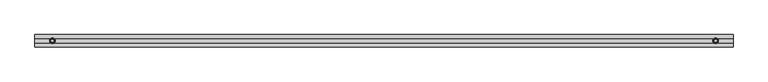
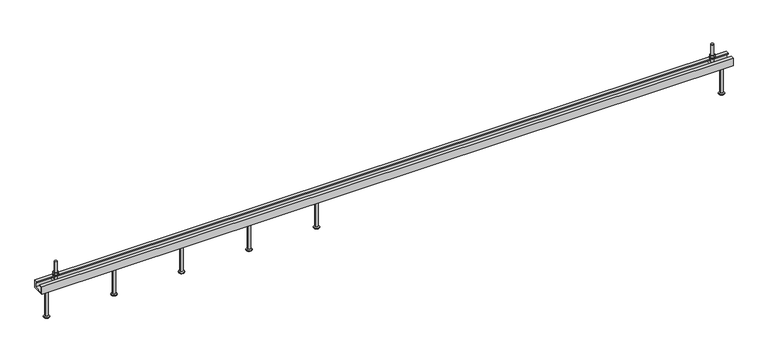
"""IFC4 building model written with IfcOpenShell, lengths in millimetres: fastener geometry, JTA-K JORDAHL® AnchorChannels : JTA-K L=3000 mm."""

from ifc_helpers import new_model, si_unit, point, frame, frame_2d, origin, place, context, project, spatial, polyline, circle_curve, trimmed, segment, composite_curve, outline, extrude, source, transform, mapped, element, save
from ifc_brep_helpers import plane_surface, cylinder_surface, revolved_surface, advanced_brep


def fastener_901281f7(model_context):
    return source(origin(), model_context, "Body", "SolidModel", [
        advanced_brep(
        [(1207.0, 0.0, -34.0), (1189.5, 0.0, -34.0), (1224.5, 0.0, -34.0), (1195.5, 0.0, -165.0), (1207.0, 0.0, -165.0), (1218.5, 0.0, -165.0), (1195.5, 0.0, -163.0), (1218.5, 0.0, -163.0), (1201.2, 0.0, -159.7091035), (1212.8, 0.0, -159.7091035), (1201.2, 0.0, -37.0), (1212.8, 0.0, -37.0)],
        [
            (0, 1),
            (1, 2, circle_curve(frame((1207.0, 0.0, -34.0), z_axis=(0.0, 0.0, 1.0), x_axis=(1.0, 0.0, 0.0)), 17.5)),
            (2, 0),
            (2, 1, circle_curve(frame((1207.0, 0.0, -34.0), z_axis=(0.0, 0.0, 1.0), x_axis=(1.0, 0.0, 0.0)), 17.5)),
            (3, 4),
            (4, 5),
            (5, 3, circle_curve(frame((1207.0, 0.0, -165.0), z_axis=(0.0, 0.0, -1.0), x_axis=(1.0, 0.0, 0.0)), 11.5)),
            (3, 5, circle_curve(frame((1207.0, 0.0, -165.0), z_axis=(0.0, 0.0, -1.0), x_axis=(1.0, 0.0, 0.0)), 11.5)),
            (6, 3),
            (5, 7),
            (7, 6, circle_curve(frame((1207.0, 0.0, -163.0), z_axis=(0.0, 0.0, -1.0), x_axis=(1.0, 0.0, 0.0)), 11.5)),
            (6, 7, circle_curve(frame((1207.0, 0.0, -163.0), z_axis=(0.0, 0.0, -1.0), x_axis=(1.0, 0.0, 0.0)), 11.5)),
            (8, 6),
            (7, 9),
            (9, 8, circle_curve(frame((1207.0, 0.0, -159.7091035), z_axis=(0.0, 0.0, -1.0), x_axis=(1.0, 0.0, 0.0)), 5.8)),
            (8, 9, circle_curve(frame((1207.0, 0.0, -159.7091035), z_axis=(0.0, 0.0, -1.0), x_axis=(1.0, 0.0, 0.0)), 5.8)),
            (10, 8),
            (9, 11),
            (11, 10, circle_curve(frame((1207.0, 0.0, -37.0), z_axis=(0.0, 0.0, -1.0), x_axis=(1.0, 0.0, 0.0)), 5.8)),
            (10, 11, circle_curve(frame((1207.0, 0.0, -37.0), z_axis=(0.0, 0.0, -1.0), x_axis=(1.0, 0.0, 0.0)), 5.8)),
            (1, 10),
            (11, 2),
        ],
        [
            plane_surface(frame((1207.0, 0.0, -34.0), z_axis=(0.0, 0.0, 1.0), x_axis=(1.0, 0.0, 0.0))),
            plane_surface(frame((1207.0, 0.0, -165.0), z_axis=(0.0, 0.0, -1.0), x_axis=(1.0, 0.0, 0.0))),
            cylinder_surface(frame((1207.0, 0.0, 2345.3150031), z_axis=(0.0, 0.0, 1.0), x_axis=(1.0, 0.0, 0.0)), 11.5),
            revolved_surface(polyline([(1218.5, 0.0, -163.0), (1212.8, 0.0, -159.7091035)]), (1207.0, 0.0, 2345.3150031), (0.0, 0.0, 1.0)),
            cylinder_surface(frame((1207.0, 0.0, 2345.3150031), z_axis=(0.0, 0.0, 1.0), x_axis=(1.0, 0.0, 0.0)), 5.8),
            revolved_surface(polyline([(1212.8, 0.0, -37.0), (1224.5, 0.0, -34.0)]), (1207.0, 0.0, 2345.3150031), (0.0, 0.0, 1.0)),
        ],
        [
            (0, [[1, 2, 3]]),
            (0, [[-3, 4, -1]]),
            (1, [[5, 6, 7]]),
            (1, [[-6, -5, 8]]),
            (2, [[9, -7, 10, 11]]),
            (2, [[-10, -8, -9, 12]]),
            (3, [[13, -11, 14, 15]]),
            (3, [[-14, -12, -13, 16]]),
            (4, [[17, -15, 18, 19]]),
            (4, [[-18, -16, -17, 20]]),
            (5, [[21, -19, 22, -2]]),
            (5, [[-22, -20, -21, -4]]),
        ],
    ),
        advanced_brep(
        [(914.0, 0.0, -34.0), (896.5, 0.0, -34.0), (931.5, 0.0, -34.0), (902.5, 0.0, -165.0), (914.0, 0.0, -165.0), (925.5, 0.0, -165.0), (902.5, 0.0, -163.0), (925.5, 0.0, -163.0), (908.2, 0.0, -159.7091035), (919.8, 0.0, -159.7091035), (908.2, 0.0, -37.0), (919.8, 0.0, -37.0)],
        [
            (0, 1),
            (1, 2, circle_curve(frame((914.0, 0.0, -34.0), z_axis=(0.0, 0.0, 1.0), x_axis=(1.0, 0.0, 0.0)), 17.5)),
            (2, 0),
            (2, 1, circle_curve(frame((914.0, 0.0, -34.0), z_axis=(0.0, 0.0, 1.0), x_axis=(1.0, 0.0, 0.0)), 17.5)),
            (3, 4),
            (4, 5),
            (5, 3, circle_curve(frame((914.0, 0.0, -165.0), z_axis=(0.0, 0.0, -1.0), x_axis=(1.0, 0.0, 0.0)), 11.5)),
            (3, 5, circle_curve(frame((914.0, 0.0, -165.0), z_axis=(0.0, 0.0, -1.0), x_axis=(1.0, 0.0, 0.0)), 11.5)),
            (6, 3),
            (5, 7),
            (7, 6, circle_curve(frame((914.0, 0.0, -163.0), z_axis=(0.0, 0.0, -1.0), x_axis=(1.0, 0.0, 0.0)), 11.5)),
            (6, 7, circle_curve(frame((914.0, 0.0, -163.0), z_axis=(0.0, 0.0, -1.0), x_axis=(1.0, 0.0, 0.0)), 11.5)),
            (8, 6),
            (7, 9),
            (9, 8, circle_curve(frame((914.0, 0.0, -159.7091035), z_axis=(0.0, 0.0, -1.0), x_axis=(1.0, 0.0, 0.0)), 5.8)),
            (8, 9, circle_curve(frame((914.0, 0.0, -159.7091035), z_axis=(0.0, 0.0, -1.0), x_axis=(1.0, 0.0, 0.0)), 5.8)),
            (10, 8),
            (9, 11),
            (11, 10, circle_curve(frame((914.0, 0.0, -37.0), z_axis=(0.0, 0.0, -1.0), x_axis=(1.0, 0.0, 0.0)), 5.8)),
            (10, 11, circle_curve(frame((914.0, 0.0, -37.0), z_axis=(0.0, 0.0, -1.0), x_axis=(1.0, 0.0, 0.0)), 5.8)),
            (1, 10),
            (11, 2),
        ],
        [
            plane_surface(frame((914.0, 0.0, -34.0), z_axis=(0.0, 0.0, 1.0), x_axis=(1.0, 0.0, 0.0))),
            plane_surface(frame((914.0, 0.0, -165.0), z_axis=(0.0, 0.0, -1.0), x_axis=(1.0, 0.0, 0.0))),
            cylinder_surface(frame((914.0, 0.0, 2345.3150031), z_axis=(0.0, 0.0, 1.0), x_axis=(1.0, 0.0, 0.0)), 11.5),
            revolved_surface(polyline([(925.5, 0.0, -163.0), (919.8, 0.0, -159.7091035)]), (914.0, 0.0, 2345.3150031), (0.0, 0.0, 1.0)),
            cylinder_surface(frame((914.0, 0.0, 2345.3150031), z_axis=(0.0, 0.0, 1.0), x_axis=(1.0, 0.0, 0.0)), 5.8),
            revolved_surface(polyline([(919.8, 0.0, -37.0), (931.5, 0.0, -34.0)]), (914.0, 0.0, 2345.3150031), (0.0, 0.0, 1.0)),
        ],
        [
            (0, [[1, 2, 3]]),
            (0, [[-3, 4, -1]]),
            (1, [[5, 6, 7]]),
            (1, [[-6, -5, 8]]),
            (2, [[9, -7, 10, 11]]),
            (2, [[-10, -8, -9, 12]]),
            (3, [[13, -11, 14, 15]]),
            (3, [[-14, -12, -13, 16]]),
            (4, [[17, -15, 18, 19]]),
            (4, [[-18, -16, -17, 20]]),
            (5, [[21, -19, 22, -2]]),
            (5, [[-22, -20, -21, -4]]),
        ],
    ),
        advanced_brep(
        [(621.0, 0.0, -34.0), (603.5, 0.0, -34.0), (638.5, 0.0, -34.0), (609.5, 0.0, -165.0), (621.0, 0.0, -165.0), (632.5, 0.0, -165.0), (609.5, 0.0, -163.0), (632.5, 0.0, -163.0), (615.2, 0.0, -159.7091035), (626.8, 0.0, -159.7091035), (615.2, 0.0, -37.0), (626.8, 0.0, -37.0)],
        [
            (0, 1),
            (1, 2, circle_curve(frame((621.0, 0.0, -34.0), z_axis=(0.0, 0.0, 1.0), x_axis=(1.0, 0.0, 0.0)), 17.5)),
            (2, 0),
            (2, 1, circle_curve(frame((621.0, 0.0, -34.0), z_axis=(0.0, 0.0, 1.0), x_axis=(1.0, 0.0, 0.0)), 17.5)),
            (3, 4),
            (4, 5),
            (5, 3, circle_curve(frame((621.0, 0.0, -165.0), z_axis=(0.0, 0.0, -1.0), x_axis=(1.0, 0.0, 0.0)), 11.5)),
            (3, 5, circle_curve(frame((621.0, 0.0, -165.0), z_axis=(0.0, 0.0, -1.0), x_axis=(1.0, 0.0, 0.0)), 11.5)),
            (6, 3),
            (5, 7),
            (7, 6, circle_curve(frame((621.0, 0.0, -163.0), z_axis=(0.0, 0.0, -1.0), x_axis=(1.0, 0.0, 0.0)), 11.5)),
            (6, 7, circle_curve(frame((621.0, 0.0, -163.0), z_axis=(0.0, 0.0, -1.0), x_axis=(1.0, 0.0, 0.0)), 11.5)),
            (8, 6),
            (7, 9),
            (9, 8, circle_curve(frame((621.0, 0.0, -159.7091035), z_axis=(0.0, 0.0, -1.0), x_axis=(1.0, 0.0, 0.0)), 5.8)),
            (8, 9, circle_curve(frame((621.0, 0.0, -159.7091035), z_axis=(0.0, 0.0, -1.0), x_axis=(1.0, 0.0, 0.0)), 5.8)),
            (10, 8),
            (9, 11),
            (11, 10, circle_curve(frame((621.0, 0.0, -37.0), z_axis=(0.0, 0.0, -1.0), x_axis=(1.0, 0.0, 0.0)), 5.8)),
            (10, 11, circle_curve(frame((621.0, 0.0, -37.0), z_axis=(0.0, 0.0, -1.0), x_axis=(1.0, 0.0, 0.0)), 5.8)),
            (1, 10),
            (11, 2),
        ],
        [
            plane_surface(frame((621.0, 0.0, -34.0), z_axis=(0.0, 0.0, 1.0), x_axis=(1.0, 0.0, 0.0))),
            plane_surface(frame((621.0, 0.0, -165.0), z_axis=(0.0, 0.0, -1.0), x_axis=(1.0, 0.0, 0.0))),
            cylinder_surface(frame((621.0, 0.0, 2345.3150031), z_axis=(0.0, 0.0, 1.0), x_axis=(1.0, 0.0, 0.0)), 11.5),
            revolved_surface(polyline([(632.5, 0.0, -163.0), (626.8, 0.0, -159.7091035)]), (621.0, 0.0, 2345.3150031), (0.0, 0.0, 1.0)),
            cylinder_surface(frame((621.0, 0.0, 2345.3150031), z_axis=(0.0, 0.0, 1.0), x_axis=(1.0, 0.0, 0.0)), 5.8),
            revolved_surface(polyline([(626.8, 0.0, -37.0), (638.5, 0.0, -34.0)]), (621.0, 0.0, 2345.3150031), (0.0, 0.0, 1.0)),
        ],
        [
            (0, [[1, 2, 3]]),
            (0, [[-3, 4, -1]]),
            (1, [[5, 6, 7]]),
            (1, [[-6, -5, 8]]),
            (2, [[9, -7, 10, 11]]),
            (2, [[-10, -8, -9, 12]]),
            (3, [[13, -11, 14, 15]]),
            (3, [[-14, -12, -13, 16]]),
            (4, [[17, -15, 18, 19]]),
            (4, [[-18, -16, -17, 20]]),
            (5, [[21, -19, 22, -2]]),
            (5, [[-22, -20, -21, -4]]),
        ],
    ),
        advanced_brep(
        [(328.0, 0.0, -34.0), (310.5, 0.0, -34.0), (345.5, 0.0, -34.0), (316.5, 0.0, -165.0), (328.0, 0.0, -165.0), (339.5, 0.0, -165.0), (316.5, 0.0, -163.0), (339.5, 0.0, -163.0), (322.2, 0.0, -159.7091035), (333.8, 0.0, -159.7091035), (322.2, 0.0, -37.0), (333.8, 0.0, -37.0)],
        [
            (0, 1),
            (1, 2, circle_curve(frame((328.0, 0.0, -34.0), z_axis=(0.0, 0.0, 1.0), x_axis=(1.0, 0.0, 0.0)), 17.5)),
            (2, 0),
            (2, 1, circle_curve(frame((328.0, 0.0, -34.0), z_axis=(0.0, 0.0, 1.0), x_axis=(1.0, 0.0, 0.0)), 17.5)),
            (3, 4),
            (4, 5),
            (5, 3, circle_curve(frame((328.0, 0.0, -165.0), z_axis=(0.0, 0.0, -1.0), x_axis=(1.0, 0.0, 0.0)), 11.5)),
            (3, 5, circle_curve(frame((328.0, 0.0, -165.0), z_axis=(0.0, 0.0, -1.0), x_axis=(1.0, 0.0, 0.0)), 11.5)),
            (6, 3),
            (5, 7),
            (7, 6, circle_curve(frame((328.0, 0.0, -163.0), z_axis=(0.0, 0.0, -1.0), x_axis=(1.0, 0.0, 0.0)), 11.5)),
            (6, 7, circle_curve(frame((328.0, 0.0, -163.0), z_axis=(0.0, 0.0, -1.0), x_axis=(1.0, 0.0, 0.0)), 11.5)),
            (8, 6),
            (7, 9),
            (9, 8, circle_curve(frame((328.0, 0.0, -159.7091035), z_axis=(0.0, 0.0, -1.0), x_axis=(1.0, 0.0, 0.0)), 5.8)),
            (8, 9, circle_curve(frame((328.0, 0.0, -159.7091035), z_axis=(0.0, 0.0, -1.0), x_axis=(1.0, 0.0, 0.0)), 5.8)),
            (10, 8),
            (9, 11),
            (11, 10, circle_curve(frame((328.0, 0.0, -37.0), z_axis=(0.0, 0.0, -1.0), x_axis=(1.0, 0.0, 0.0)), 5.8)),
            (10, 11, circle_curve(frame((328.0, 0.0, -37.0), z_axis=(0.0, 0.0, -1.0), x_axis=(1.0, 0.0, 0.0)), 5.8)),
            (1, 10),
            (11, 2),
        ],
        [
            plane_surface(frame((328.0, 0.0, -34.0), z_axis=(0.0, 0.0, 1.0), x_axis=(1.0, 0.0, 0.0))),
            plane_surface(frame((328.0, 0.0, -165.0), z_axis=(0.0, 0.0, -1.0), x_axis=(1.0, 0.0, 0.0))),
            cylinder_surface(frame((328.0, 0.0, 2345.3150031), z_axis=(0.0, 0.0, 1.0), x_axis=(1.0, 0.0, 0.0)), 11.5),
            revolved_surface(polyline([(339.5, 0.0, -163.0), (333.8, 0.0, -159.7091035)]), (328.0, 0.0, 2345.3150031), (0.0, 0.0, 1.0)),
            cylinder_surface(frame((328.0, 0.0, 2345.3150031), z_axis=(0.0, 0.0, 1.0), x_axis=(1.0, 0.0, 0.0)), 5.8),
            revolved_surface(polyline([(333.8, 0.0, -37.0), (345.5, 0.0, -34.0)]), (328.0, 0.0, 2345.3150031), (0.0, 0.0, 1.0)),
        ],
        [
            (0, [[1, 2, 3]]),
            (0, [[-3, 4, -1]]),
            (1, [[5, 6, 7]]),
            (1, [[-6, -5, 8]]),
            (2, [[9, -7, 10, 11]]),
            (2, [[-10, -8, -9, 12]]),
            (3, [[13, -11, 14, 15]]),
            (3, [[-14, -12, -13, 16]]),
            (4, [[17, -15, 18, 19]]),
            (4, [[-18, -16, -17, 20]]),
            (5, [[21, -19, 22, -2]]),
            (5, [[-22, -20, -21, -4]]),
        ],
    ),
        extrude(outline(polyline([(2925.0, -10.3923048), (2916.0, -5.1961524), (2916.0, 5.1961524), (2925.0, 10.3923048), (2934.0, 5.1961524), (2934.0, -5.1961524), (2925.0, -10.3923048)]), holes=[composite_curve([segment(trimmed(circle_curve(frame_2d((2925.0, 0.0)), 6.0), [point((2919.0, 0.0))], [point((2931.0, 0.0))], True, "CARTESIAN"), True, "CONTINUOUS"), segment(trimmed(circle_curve(frame_2d((2925.0, 0.0)), 6.0), [point((2931.0, 0.0))], [point((2919.0, 0.0))], True, "CARTESIAN"), True, "CONTINUOUS")], self_intersect=False)]), frame((0.0, 0.0, 17.5), z_axis=(0.0, 0.0, 1.0), x_axis=(1.0, 0.0, 0.0)), (0.0, 0.0, 1.0), 10.8),
        extrude(outline(composite_curve([segment(trimmed(circle_curve(frame_2d((2925.0, 0.0)), 12.0), [point((2913.0, 0.0))], [point((2937.0, 0.0))], False, "CARTESIAN"), True, "CONTINUOUS"), segment(trimmed(circle_curve(frame_2d((2925.0, 0.0)), 12.0), [point((2937.0, 0.0))], [point((2913.0, 0.0))], False, "CARTESIAN"), True, "CONTINUOUS")], self_intersect=False), holes=[composite_curve([segment(trimmed(circle_curve(frame_2d((2925.0, 0.0)), 6.5), [point((2918.5, 0.0))], [point((2931.5, 0.0))], True, "CARTESIAN"), True, "CONTINUOUS"), segment(trimmed(circle_curve(frame_2d((2925.0, 0.0)), 6.5), [point((2931.5, 0.0))], [point((2918.5, 0.0))], True, "CARTESIAN"), True, "CONTINUOUS")], self_intersect=False)]), frame((0.0, 0.0, 15.0), z_axis=(0.0, 0.0, 1.0), x_axis=(1.0, 0.0, 0.0)), (0.0, 0.0, 1.0), 2.5),
        extrude(outline(polyline([(75.0, -10.3923048), (66.0, -5.1961524), (66.0, 5.1961524), (75.0, 10.3923048), (84.0, 5.1961524), (84.0, -5.1961524), (75.0, -10.3923048)]), holes=[composite_curve([segment(trimmed(circle_curve(frame_2d((75.0, 0.0)), 6.0), [point((69.0, 0.0))], [point((81.0, 0.0))], True, "CARTESIAN"), True, "CONTINUOUS"), segment(trimmed(circle_curve(frame_2d((75.0, 0.0)), 6.0), [point((81.0, 0.0))], [point((69.0, 0.0))], True, "CARTESIAN"), True, "CONTINUOUS")], self_intersect=False)]), frame((0.0, 0.0, 17.5), z_axis=(0.0, 0.0, 1.0), x_axis=(1.0, 0.0, 0.0)), (0.0, 0.0, 1.0), 10.8),
        extrude(outline(composite_curve([segment(trimmed(circle_curve(frame_2d((75.0, 0.0)), 12.0), [point((63.0, 0.0))], [point((87.0, 0.0))], False, "CARTESIAN"), True, "CONTINUOUS"), segment(trimmed(circle_curve(frame_2d((75.0, 0.0)), 12.0), [point((87.0, 0.0))], [point((63.0, 0.0))], False, "CARTESIAN"), True, "CONTINUOUS")], self_intersect=False), holes=[composite_curve([segment(trimmed(circle_curve(frame_2d((75.0, 0.0)), 6.5), [point((68.5, 0.0))], [point((81.5, 0.0))], True, "CARTESIAN"), True, "CONTINUOUS"), segment(trimmed(circle_curve(frame_2d((75.0, 0.0)), 6.5), [point((81.5, 0.0))], [point((68.5, 0.0))], True, "CARTESIAN"), True, "CONTINUOUS")], self_intersect=False)]), frame((0.0, 0.0, 15.0), z_axis=(0.0, 0.0, 1.0), x_axis=(1.0, 0.0, 0.0)), (0.0, 0.0, 1.0), 2.5),
        advanced_brep(
        [(2933.5, -20.7, -4.5), (2933.5, -20.7, -14.5), (2933.5, 20.7, -14.5), (2933.5, 20.7, -4.5), (2916.5, -20.7, -4.5), (2916.5, 20.7, -4.5), (2916.5, 20.7, -14.5), (2916.5, -20.7, -14.5), (2931.0, 0.0, -4.5), (2919.0, 0.0, -4.5), (2919.0, 0.0, 75.5), (2931.0, 0.0, 75.5)],
        [
            (0, 1),
            (1, 2),
            (2, 3),
            (3, 0),
            (4, 5),
            (5, 6),
            (6, 7),
            (7, 4),
            (3, 5),
            (4, 0),
            (8, 9, circle_curve(frame((2925.0, 0.0, -4.5), z_axis=(0.0, 0.0, -1.0), x_axis=(1.0, 0.0, 0.0)), 6.0)),
            (9, 8, circle_curve(frame((2925.0, 0.0, -4.5), z_axis=(0.0, 0.0, -1.0), x_axis=(1.0, 0.0, 0.0)), 6.0)),
            (2, 6),
            (1, 7),
            (10, 11, circle_curve(frame((2925.0, 0.0, 75.5), z_axis=(0.0, 0.0, 1.0), x_axis=(1.0, 0.0, 0.0)), 6.0)),
            (11, 10, circle_curve(frame((2925.0, 0.0, 75.5), z_axis=(0.0, 0.0, 1.0), x_axis=(1.0, 0.0, 0.0)), 6.0)),
            (11, 8),
            (9, 10),
        ],
        [
            plane_surface(frame((2933.5, 20.7, -4.5), z_axis=(1.0, 0.0, 0.0), x_axis=(0.0, 1.0, 0.0))),
            plane_surface(frame((2916.5, 20.7, -4.5), z_axis=(-1.0, 0.0, 0.0), x_axis=(0.0, -1.0, 0.0))),
            plane_surface(frame((2933.5, -20.7, -4.5), z_axis=(0.0, 0.0, 1.0), x_axis=(-1.0, 0.0, 0.0))),
            plane_surface(frame((2933.5, 20.7, -4.5), z_axis=(0.0, 1.0, 0.0), x_axis=(-1.0, 0.0, 0.0))),
            plane_surface(frame((2933.5, 20.7, -14.5), z_axis=(0.0, 0.0, -1.0), x_axis=(-1.0, 0.0, 0.0))),
            plane_surface(frame((2933.5, -20.7, -14.5), z_axis=(0.0, -1.0, 0.0), x_axis=(-1.0, 0.0, 0.0))),
            plane_surface(frame((2931.0, 0.0, 75.5), z_axis=(0.0, 0.0, 1.0), x_axis=(0.0, -1.0, 0.0))),
            cylinder_surface(frame((2925.0, 0.0, -4.5), z_axis=(0.0, 0.0, 1.0), x_axis=(1.0, 0.0, 0.0)), 6.0),
        ],
        [
            (0, [[1, 2, 3, 4]]),
            (1, [[5, 6, 7, 8]]),
            (2, [[9, -5, 10, -4], [11, 12]]),
            (3, [[13, -6, -9, -3]]),
            (4, [[14, -7, -13, -2]]),
            (5, [[-10, -8, -14, -1]]),
            (6, [[15, 16]]),
            (7, [[17, -12, 18, -16]]),
            (7, [[-18, -11, -17, -15]]),
        ],
    ),
        advanced_brep(
        [(83.5, -20.7, -4.5), (83.5, -20.7, -14.5), (83.5, 20.7, -14.5), (83.5, 20.7, -4.5), (66.5, -20.7, -4.5), (66.5, 20.7, -4.5), (66.5, 20.7, -14.5), (66.5, -20.7, -14.5), (81.0, 0.0, -4.5), (69.0, 0.0, -4.5), (69.0, 0.0, 75.5), (81.0, 0.0, 75.5)],
        [
            (0, 1),
            (1, 2),
            (2, 3),
            (3, 0),
            (4, 5),
            (5, 6),
            (6, 7),
            (7, 4),
            (3, 5),
            (4, 0),
            (8, 9, circle_curve(frame((75.0, 0.0, -4.5), z_axis=(0.0, 0.0, -1.0), x_axis=(1.0, 0.0, 0.0)), 6.0)),
            (9, 8, circle_curve(frame((75.0, 0.0, -4.5), z_axis=(0.0, 0.0, -1.0), x_axis=(1.0, 0.0, 0.0)), 6.0)),
            (2, 6),
            (1, 7),
            (10, 11, circle_curve(frame((75.0, 0.0, 75.5), z_axis=(0.0, 0.0, 1.0), x_axis=(1.0, 0.0, 0.0)), 6.0)),
            (11, 10, circle_curve(frame((75.0, 0.0, 75.5), z_axis=(0.0, 0.0, 1.0), x_axis=(1.0, 0.0, 0.0)), 6.0)),
            (11, 8),
            (9, 10),
        ],
        [
            plane_surface(frame((83.5, 20.7, -4.5), z_axis=(1.0, 0.0, 0.0), x_axis=(0.0, 1.0, 0.0))),
            plane_surface(frame((66.5, 20.7, -4.5), z_axis=(-1.0, 0.0, 0.0), x_axis=(0.0, -1.0, 0.0))),
            plane_surface(frame((83.5, -20.7, -4.5), z_axis=(0.0, 0.0, 1.0), x_axis=(-1.0, 0.0, 0.0))),
            plane_surface(frame((83.5, 20.7, -4.5), z_axis=(0.0, 1.0, 0.0), x_axis=(-1.0, 0.0, 0.0))),
            plane_surface(frame((83.5, 20.7, -14.5), z_axis=(0.0, 0.0, -1.0), x_axis=(-1.0, 0.0, 0.0))),
            plane_surface(frame((83.5, -20.7, -14.5), z_axis=(0.0, -1.0, 0.0), x_axis=(-1.0, 0.0, 0.0))),
            plane_surface(frame((81.0, 0.0, 75.5), z_axis=(0.0, 0.0, 1.0), x_axis=(0.0, -1.0, 0.0))),
            cylinder_surface(frame((75.0, 0.0, -4.5), z_axis=(0.0, 0.0, 1.0), x_axis=(1.0, 0.0, 0.0)), 6.0),
        ],
        [
            (0, [[1, 2, 3, 4]]),
            (1, [[5, 6, 7, 8]]),
            (2, [[9, -5, 10, -4], [11, 12]]),
            (3, [[13, -6, -9, -3]]),
            (4, [[14, -7, -13, -2]]),
            (5, [[-10, -8, -14, -1]]),
            (6, [[15, 16]]),
            (7, [[17, -12, 18, -16]]),
            (7, [[-18, -11, -17, -15]]),
        ],
    ),
        advanced_brep(
        [(2965.0, 0.0, -34.0), (2947.5, 0.0, -34.0), (2982.5, 0.0, -34.0), (2953.5, 0.0, -165.0), (2965.0, 0.0, -165.0), (2976.5, 0.0, -165.0), (2953.5, 0.0, -163.0), (2976.5, 0.0, -163.0), (2959.2, 0.0, -159.7091035), (2970.8, 0.0, -159.7091035), (2959.2, 0.0, -37.0), (2970.8, 0.0, -37.0)],
        [
            (0, 1),
            (1, 2, circle_curve(frame((2965.0, 0.0, -34.0), z_axis=(0.0, 0.0, 1.0), x_axis=(1.0, 0.0, 0.0)), 17.5)),
            (2, 0),
            (2, 1, circle_curve(frame((2965.0, 0.0, -34.0), z_axis=(0.0, 0.0, 1.0), x_axis=(1.0, 0.0, 0.0)), 17.5)),
            (3, 4),
            (4, 5),
            (5, 3, circle_curve(frame((2965.0, 0.0, -165.0), z_axis=(0.0, 0.0, -1.0), x_axis=(1.0, 0.0, 0.0)), 11.5)),
            (3, 5, circle_curve(frame((2965.0, 0.0, -165.0), z_axis=(0.0, 0.0, -1.0), x_axis=(1.0, 0.0, 0.0)), 11.5)),
            (6, 3),
            (5, 7),
            (7, 6, circle_curve(frame((2965.0, 0.0, -163.0), z_axis=(0.0, 0.0, -1.0), x_axis=(1.0, 0.0, 0.0)), 11.5)),
            (6, 7, circle_curve(frame((2965.0, 0.0, -163.0), z_axis=(0.0, 0.0, -1.0), x_axis=(1.0, 0.0, 0.0)), 11.5)),
            (8, 6),
            (7, 9),
            (9, 8, circle_curve(frame((2965.0, 0.0, -159.7091035), z_axis=(0.0, 0.0, -1.0), x_axis=(1.0, 0.0, 0.0)), 5.8)),
            (8, 9, circle_curve(frame((2965.0, 0.0, -159.7091035), z_axis=(0.0, 0.0, -1.0), x_axis=(1.0, 0.0, 0.0)), 5.8)),
            (10, 8),
            (9, 11),
            (11, 10, circle_curve(frame((2965.0, 0.0, -37.0), z_axis=(0.0, 0.0, -1.0), x_axis=(1.0, 0.0, 0.0)), 5.8)),
            (10, 11, circle_curve(frame((2965.0, 0.0, -37.0), z_axis=(0.0, 0.0, -1.0), x_axis=(1.0, 0.0, 0.0)), 5.8)),
            (1, 10),
            (11, 2),
        ],
        [
            plane_surface(frame((2965.0, 0.0, -34.0), z_axis=(0.0, 0.0, 1.0), x_axis=(1.0, 0.0, 0.0))),
            plane_surface(frame((2965.0, 0.0, -165.0), z_axis=(0.0, 0.0, -1.0), x_axis=(1.0, 0.0, 0.0))),
            cylinder_surface(frame((2965.0, 0.0, 2345.3150031), z_axis=(0.0, 0.0, 1.0), x_axis=(1.0, 0.0, 0.0)), 11.5),
            revolved_surface(polyline([(2976.5, 0.0, -163.0), (2970.8, 0.0, -159.7091035)]), (2965.0, 0.0, 2345.3150031), (0.0, 0.0, 1.0)),
            cylinder_surface(frame((2965.0, 0.0, 2345.3150031), z_axis=(0.0, 0.0, 1.0), x_axis=(1.0, 0.0, 0.0)), 5.8),
            revolved_surface(polyline([(2970.8, 0.0, -37.0), (2982.5, 0.0, -34.0)]), (2965.0, 0.0, 2345.3150031), (0.0, 0.0, 1.0)),
        ],
        [
            (0, [[1, 2, 3]]),
            (0, [[-3, 4, -1]]),
            (1, [[5, 6, 7]]),
            (1, [[-6, -5, 8]]),
            (2, [[9, -7, 10, 11]]),
            (2, [[-10, -8, -9, 12]]),
            (3, [[13, -11, 14, 15]]),
            (3, [[-14, -12, -13, 16]]),
            (4, [[17, -15, 18, 19]]),
            (4, [[-18, -16, -17, 20]]),
            (5, [[21, -19, 22, -2]]),
            (5, [[-22, -20, -21, -4]]),
        ],
    ),
        advanced_brep(
        [(35.0, 0.0, -34.0), (17.5, 0.0, -34.0), (52.5, 0.0, -34.0), (23.5, 0.0, -165.0), (35.0, 0.0, -165.0), (46.5, 0.0, -165.0), (23.5, 0.0, -163.0), (46.5, 0.0, -163.0), (29.2, 0.0, -159.7091035), (40.8, 0.0, -159.7091035), (29.2, 0.0, -37.0), (40.8, 0.0, -37.0)],
        [
            (0, 1),
            (1, 2, circle_curve(frame((35.0, 0.0, -34.0), z_axis=(0.0, 0.0, 1.0), x_axis=(1.0, 0.0, 0.0)), 17.5)),
            (2, 0),
            (2, 1, circle_curve(frame((35.0, 0.0, -34.0), z_axis=(0.0, 0.0, 1.0), x_axis=(1.0, 0.0, 0.0)), 17.5)),
            (3, 4),
            (4, 5),
            (5, 3, circle_curve(frame((35.0, 0.0, -165.0), z_axis=(0.0, 0.0, -1.0), x_axis=(1.0, 0.0, 0.0)), 11.5)),
            (3, 5, circle_curve(frame((35.0, 0.0, -165.0), z_axis=(0.0, 0.0, -1.0), x_axis=(1.0, 0.0, 0.0)), 11.5)),
            (6, 3),
            (5, 7),
            (7, 6, circle_curve(frame((35.0, 0.0, -163.0), z_axis=(0.0, 0.0, -1.0), x_axis=(1.0, 0.0, 0.0)), 11.5)),
            (6, 7, circle_curve(frame((35.0, 0.0, -163.0), z_axis=(0.0, 0.0, -1.0), x_axis=(1.0, 0.0, 0.0)), 11.5)),
            (8, 6),
            (7, 9),
            (9, 8, circle_curve(frame((35.0, 0.0, -159.7091035), z_axis=(0.0, 0.0, -1.0), x_axis=(1.0, 0.0, 0.0)), 5.8)),
            (8, 9, circle_curve(frame((35.0, 0.0, -159.7091035), z_axis=(0.0, 0.0, -1.0), x_axis=(1.0, 0.0, 0.0)), 5.8)),
            (10, 8),
            (9, 11),
            (11, 10, circle_curve(frame((35.0, 0.0, -37.0), z_axis=(0.0, 0.0, -1.0), x_axis=(1.0, 0.0, 0.0)), 5.8)),
            (10, 11, circle_curve(frame((35.0, 0.0, -37.0), z_axis=(0.0, 0.0, -1.0), x_axis=(1.0, 0.0, 0.0)), 5.8)),
            (1, 10),
            (11, 2),
        ],
        [
            plane_surface(frame((35.0, 0.0, -34.0), z_axis=(0.0, 0.0, 1.0), x_axis=(1.0, 0.0, 0.0))),
            plane_surface(frame((35.0, 0.0, -165.0), z_axis=(0.0, 0.0, -1.0), x_axis=(1.0, 0.0, 0.0))),
            cylinder_surface(frame((35.0, 0.0, 2345.3150031), z_axis=(0.0, 0.0, 1.0), x_axis=(1.0, 0.0, 0.0)), 11.5),
            revolved_surface(polyline([(46.5, 0.0, -163.0), (40.8, 0.0, -159.7091035)]), (35.0, 0.0, 2345.3150031), (0.0, 0.0, 1.0)),
            cylinder_surface(frame((35.0, 0.0, 2345.3150031), z_axis=(0.0, 0.0, 1.0), x_axis=(1.0, 0.0, 0.0)), 5.8),
            revolved_surface(polyline([(40.8, 0.0, -37.0), (52.5, 0.0, -34.0)]), (35.0, 0.0, 2345.3150031), (0.0, 0.0, 1.0)),
        ],
        [
            (0, [[1, 2, 3]]),
            (0, [[-3, 4, -1]]),
            (1, [[5, 6, 7]]),
            (1, [[-6, -5, 8]]),
            (2, [[9, -7, 10, 11]]),
            (2, [[-10, -8, -9, 12]]),
            (3, [[13, -11, 14, 15]]),
            (3, [[-14, -12, -13, 16]]),
            (4, [[17, -15, 18, 19]]),
            (4, [[-18, -16, -17, 20]]),
            (5, [[21, -19, 22, -2]]),
            (5, [[-22, -20, -21, -4]]),
        ],
    ),
        extrude(outline(polyline([(-26.5, 0.0), (-11.0, 0.0), (-11.0, -4.5), (-22.0, -4.5), (-22.0, -29.5), (22.0, -29.5), (22.0, -4.5), (11.0, -4.5), (11.0, 0.0), (26.5, 0.0), (26.5, -34.0), (-26.5, -34.0), (-26.5, 0.0)])), frame((0.0, 0.0, 0.0), z_axis=(1.0, 0.0, 0.0), x_axis=(0.0, 1.0, 0.0)), (0.0, 0.0, 1.0), 3000.0),
    ])


if __name__ == "__main__":
    model = new_model("IFC4")
    model_context = context("Model", 3, world=origin())
    ifc_project = project(units=[si_unit("LENGTHUNIT", "METRE", prefix="MILLI")], contexts=[model_context])
    site = spatial("IfcSite", under=ifc_project)
    building = spatial("IfcBuilding", under=site)
    placement = place(None, origin())
    fastener_shape = fastener_901281f7(model_context)
    element("IfcFastener", 1, ObjectType="JTA-K JORDAHL® AnchorChannels : JTA-K L=3000 mm", at=placement, inside=building, context=model_context, shape_type="MappedRepresentation", body=[
        mapped(fastener_shape, transform((0.0, 0.0, 0.0), x_axis=(1.0, 0.0, 0.0), y_axis=(0.0, 1.0, 0.0), z_axis=(0.0, 0.0, 1.0))),
    ])
    save(model, "model.ifc")
